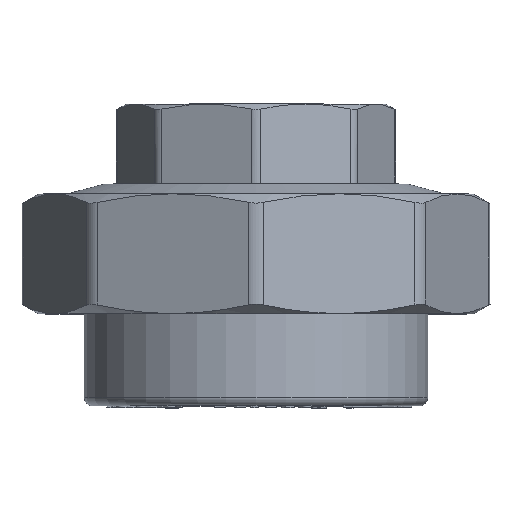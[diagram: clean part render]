
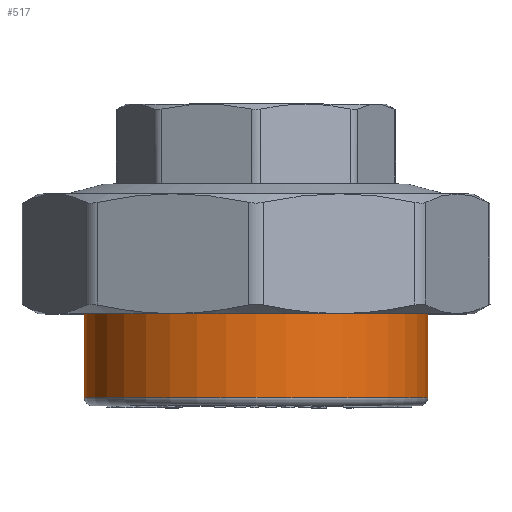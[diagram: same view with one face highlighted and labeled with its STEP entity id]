
A CAD part, top view. The second image highlights one B-rep face of the part: STEP entity #517.
In plain terms, the highlighted cylindrical face has radius 43 mm (diameter 86 mm), a full revolution.
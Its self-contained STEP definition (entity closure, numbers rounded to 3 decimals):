
#517=ADVANCED_FACE('',(#3841,#3843),#3845,.T.);
#3841=FACE_OUTER_BOUND('',#3842,.T.);
#3842=EDGE_LOOP('',(#8692));
#3843=FACE_OUTER_BOUND('',#3844,.T.);
#3844=EDGE_LOOP('',(#8693));
#3845=CYLINDRICAL_SURFACE('',#3846,43.);
#3846=AXIS2_PLACEMENT_3D('',#3847,#3848,#3849);
#3847=CARTESIAN_POINT('',(0.,0.,0.));
#3848=DIRECTION('',(0.,1.,0.));
#3849=DIRECTION('',(-1.,0.,0.));
#8692=ORIENTED_EDGE('',*,*,#12052,.F.);
#8693=ORIENTED_EDGE('',*,*,#11131,.T.);
#11131=EDGE_CURVE('',#13592,#13592,#13593,.T.);
#12052=EDGE_CURVE('',#14974,#14974,#14975,.T.);
#13592=VERTEX_POINT('',#18353);
#13593=CIRCLE('',#18354,43.);
#14974=VERTEX_POINT('',#21586);
#14975=CIRCLE('',#21587,43.);
#18353=CARTESIAN_POINT('',(-43.,2.,0.));
#18354=AXIS2_PLACEMENT_3D('',#18355,#18356,#18357);
#18355=CARTESIAN_POINT('',(0.,2.,0.));
#18356=DIRECTION('',(0.,1.,0.));
#18357=DIRECTION('',(-1.,0.,0.));
#21586=CARTESIAN_POINT('',(-43.,28.,0.));
#21587=AXIS2_PLACEMENT_3D('',#21588,#21589,#21590);
#21588=CARTESIAN_POINT('',(0.,28.,0.));
#21589=DIRECTION('',(0.,1.,0.));
#21590=DIRECTION('',(-1.,0.,0.));
